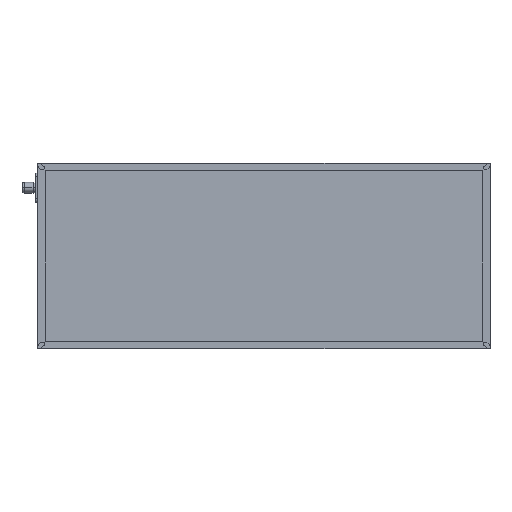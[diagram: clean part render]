
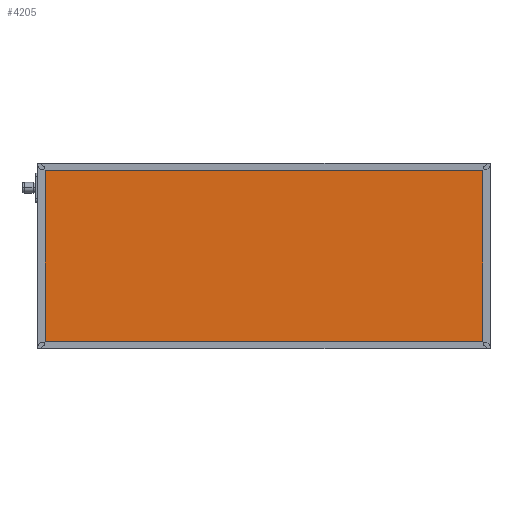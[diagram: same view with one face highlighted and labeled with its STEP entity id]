
A CAD part, top view. The second image highlights one B-rep face of the part: STEP entity #4205.
In plain terms, the highlighted planar face has unit normal (0, 0, 1).
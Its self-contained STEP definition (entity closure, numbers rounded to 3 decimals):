
#228 = PLANE ( 'NONE',  #12076 ) ;
#310 = CARTESIAN_POINT ( 'NONE',  ( 0., 0., 41.85 ) ) ;
#2148 = ORIENTED_EDGE ( 'NONE', *, *, #8478, .T. ) ;
#2249 = CARTESIAN_POINT ( 'NONE',  ( 496., 0., 41.85 ) ) ;
#2402 = EDGE_CURVE ( 'NONE', #5430, #13507, #13888, .T. ) ;
#2927 = ORIENTED_EDGE ( 'NONE', *, *, #2402, .T. ) ;
#3305 = LINE ( 'NONE', #2249, #15410 ) ;
#3600 = EDGE_CURVE ( 'NONE', #13507, #13627, #3305, .T. ) ;
#4205 = ADVANCED_FACE ( 'NONE', ( #9711 ), #228, .F. ) ;
#5430 = VERTEX_POINT ( 'NONE', #6835 ) ;
#6189 = LINE ( 'NONE', #11492, #15948 ) ;
#6559 = CARTESIAN_POINT ( 'NONE',  ( 4., 196., 41.85 ) ) ;
#6835 = CARTESIAN_POINT ( 'NONE',  ( 4., 4., 41.85 ) ) ;
#7062 = VECTOR ( 'NONE', #13361, 1000. ) ;
#7109 = DIRECTION ( 'NONE',  ( 0., 0., -1. ) ) ;
#7373 = CARTESIAN_POINT ( 'NONE',  ( 496., 4., 41.85 ) ) ;
#7570 = DIRECTION ( 'NONE',  ( 0., 1., 0. ) ) ;
#8070 = EDGE_CURVE ( 'NONE', #13627, #9908, #6189, .T. ) ;
#8478 = EDGE_CURVE ( 'NONE', #9908, #5430, #9369, .T. ) ;
#8758 = CARTESIAN_POINT ( 'NONE',  ( 0., 4., 41.85 ) ) ;
#8893 = DIRECTION ( 'NONE',  ( -1., 0., 0. ) ) ;
#9369 = LINE ( 'NONE', #14680, #7062 ) ;
#9582 = EDGE_LOOP ( 'NONE', ( #14022, #16967, #2148, #2927 ) ) ;
#9711 = FACE_OUTER_BOUND ( 'NONE', #9582, .T. ) ;
#9908 = VERTEX_POINT ( 'NONE', #6559 ) ;
#11492 = CARTESIAN_POINT ( 'NONE',  ( 0., 196., 41.85 ) ) ;
#12063 = CARTESIAN_POINT ( 'NONE',  ( 496., 196., 41.85 ) ) ;
#12076 = AXIS2_PLACEMENT_3D ( 'NONE', #310, #7109, #12403 ) ;
#12403 = DIRECTION ( 'NONE',  ( -1., 0., 0. ) ) ;
#12752 = DIRECTION ( 'NONE',  ( 1., 0., 0. ) ) ;
#13361 = DIRECTION ( 'NONE',  ( 0., -1., 0. ) ) ;
#13507 = VERTEX_POINT ( 'NONE', #7373 ) ;
#13627 = VERTEX_POINT ( 'NONE', #12063 ) ;
#13888 = LINE ( 'NONE', #8758, #15545 ) ;
#14022 = ORIENTED_EDGE ( 'NONE', *, *, #3600, .T. ) ;
#14680 = CARTESIAN_POINT ( 'NONE',  ( 4., 0., 41.85 ) ) ;
#15410 = VECTOR ( 'NONE', #7570, 1000. ) ;
#15545 = VECTOR ( 'NONE', #12752, 1000. ) ;
#15948 = VECTOR ( 'NONE', #8893, 1000. ) ;
#16967 = ORIENTED_EDGE ( 'NONE', *, *, #8070, .T. ) ;
